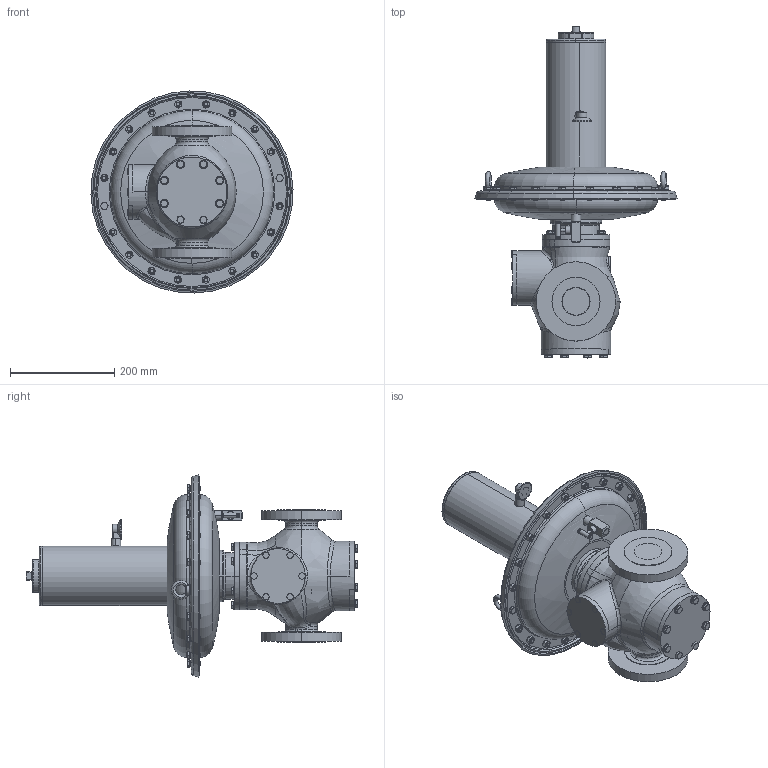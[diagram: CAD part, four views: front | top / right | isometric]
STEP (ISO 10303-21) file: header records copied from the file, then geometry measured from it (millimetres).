
FILE_DESCRIPTION((''),'2;1');
FILE_NAME('222023R0_BRISE_2_TAMP_SW0003','2020-05-25T',('jjunior'),(''),'PRO/ENGINEER BY PARAMETRIC TECHNOLOGY CORPORATION, 2010160','PRO/ENGINEER BY PARAMETRIC TECHNOLOGY CORPORATION, 2010160','');
FILE_SCHEMA(('CONFIG_CONTROL_DESIGN'));
Length unit declared in the file: millimetre
Products named in the file (1): 222023R0_BRISE_2_TAMP_SW0003
Bounding box: 387.06 x 635.65 x 387.06 mm (x, y, z)
Volume: 3750895.1 mm3; surface area: 1265524.2 mm2
Topology: 3 solids, 3 shells, 2207 faces, 5024 edges, 3050 vertices
Faces by surface type: plane 640, cylinder 594, cone 590, bspline 206, torus 151, sphere 23, extrusion 3
Entity records: 82822 total; most frequent: CARTESIAN_POINT 35432, ORIENTED_EDGE 9970, DIRECTION 9601, EDGE_CURVE 4985, AXIS2_PLACEMENT_3D 4130, VERTEX_POINT 3050, EDGE_LOOP 2529, FACE_OUTER_BOUND 2207
